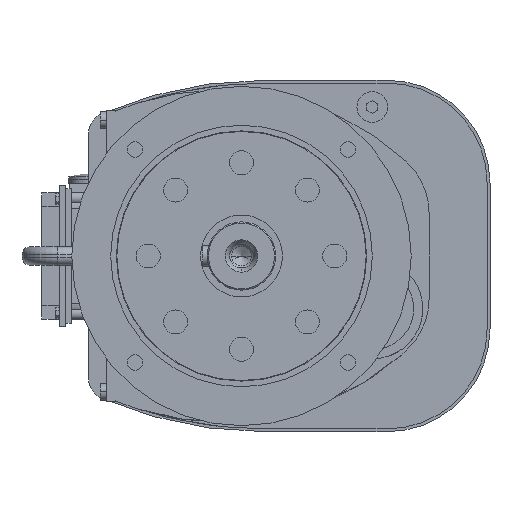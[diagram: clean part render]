
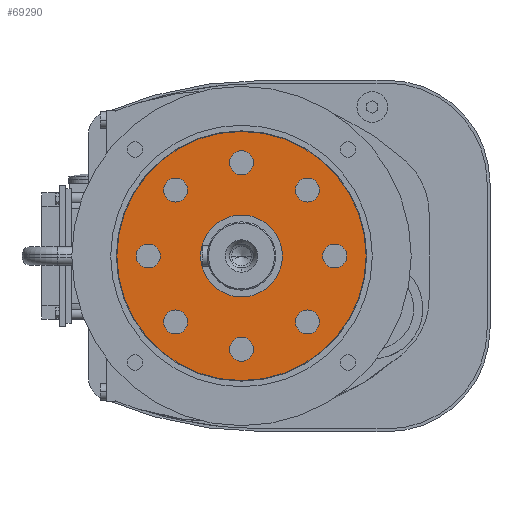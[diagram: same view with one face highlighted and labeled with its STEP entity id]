
A CAD part, left-side view. The second image highlights one B-rep face of the part: STEP entity #69290.
In plain terms, the highlighted planar face has unit normal (-1, 0, 0).
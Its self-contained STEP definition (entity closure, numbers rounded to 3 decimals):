
#63640=CARTESIAN_POINT('',(4.5,109.555,0.));
#63650=VERTEX_POINT('',#63640);
#63830=CARTESIAN_POINT('',(4.5,-109.555,0.));
#63840=VERTEX_POINT('',#63830);
#63870=CARTESIAN_POINT('',(4.5,0.,0.));
#63880=DIRECTION('',(-1.,0.,0.));
#63890=DIRECTION('',(0.,1.,0.));
#63900=AXIS2_PLACEMENT_3D('',#63870,#63880,#63890);
#63910=CIRCLE('',#63900,109.555);
#63920=EDGE_CURVE('',#63840,#63650,#63910,.T.);
#67540=EDGE_CURVE('',#63650,#63840,#63910,.T.);
#68000=CARTESIAN_POINT('',(4.5,70.,0.));
#68010=DIRECTION('',(1.,0.,0.));
#68020=DIRECTION('',(0.,-1.,0.));
#68030=AXIS2_PLACEMENT_3D('',#68000,#68010,#68020);
#68040=PLANE('',#68030);
#68050=ORIENTED_EDGE('',*,*,#67540,.T.);
#68060=ORIENTED_EDGE('',*,*,#63920,.T.);
#68070=EDGE_LOOP('',(#68060,#68050));
#68080=FACE_OUTER_BOUND('',#68070,.T.);
#68090=CARTESIAN_POINT('',(4.5,0.,-82.));
#68100=DIRECTION('',(-1.,0.,0.));
#68110=DIRECTION('',(0.,-1.,0.));
#68120=AXIS2_PLACEMENT_3D('',#68090,#68100,#68110);
#68130=CIRCLE('',#68120,10.55);
#68140=CARTESIAN_POINT('',(4.5,-10.55,-82.));
#68150=VERTEX_POINT('',#68140);
#68160=CARTESIAN_POINT('',(4.5,10.55,-82.));
#68170=VERTEX_POINT('',#68160);
#68180=EDGE_CURVE('',#68150,#68170,#68130,.T.);
#68190=ORIENTED_EDGE('',*,*,#68180,.F.);
#68200=EDGE_CURVE('',#68170,#68150,#68130,.T.);
#68210=ORIENTED_EDGE('',*,*,#68200,.F.);
#68220=EDGE_LOOP('',(#68210,#68190));
#68230=FACE_BOUND('',#68220,.T.);
#68240=CARTESIAN_POINT('',(4.5,-57.983,-57.983));
#68250=DIRECTION('',(-1.,0.,0.));
#68260=DIRECTION('',(0.,-1.,0.));
#68270=AXIS2_PLACEMENT_3D('',#68240,#68250,#68260);
#68280=CIRCLE('',#68270,10.55);
#68290=CARTESIAN_POINT('',(4.5,-68.533,-57.983));
#68300=VERTEX_POINT('',#68290);
#68310=CARTESIAN_POINT('',(4.5,-47.433,-57.983));
#68320=VERTEX_POINT('',#68310);
#68330=EDGE_CURVE('',#68300,#68320,#68280,.T.);
#68340=ORIENTED_EDGE('',*,*,#68330,.F.);
#68350=EDGE_CURVE('',#68320,#68300,#68280,.T.);
#68360=ORIENTED_EDGE('',*,*,#68350,.F.);
#68370=EDGE_LOOP('',(#68360,#68340));
#68380=FACE_BOUND('',#68370,.T.);
#68390=CARTESIAN_POINT('',(4.5,-82.,0.));
#68400=DIRECTION('',(-1.,0.,0.));
#68410=DIRECTION('',(0.,-1.,0.));
#68420=AXIS2_PLACEMENT_3D('',#68390,#68400,#68410);
#68430=CIRCLE('',#68420,10.55);
#68440=CARTESIAN_POINT('',(4.5,-92.55,0.));
#68450=VERTEX_POINT('',#68440);
#68460=CARTESIAN_POINT('',(4.5,-71.45,0.));
#68470=VERTEX_POINT('',#68460);
#68480=EDGE_CURVE('',#68450,#68470,#68430,.T.);
#68490=ORIENTED_EDGE('',*,*,#68480,.F.);
#68500=EDGE_CURVE('',#68470,#68450,#68430,.T.);
#68510=ORIENTED_EDGE('',*,*,#68500,.F.);
#68520=EDGE_LOOP('',(#68510,#68490));
#68530=FACE_BOUND('',#68520,.T.);
#68540=CARTESIAN_POINT('',(4.5,82.,0.));
#68550=DIRECTION('',(-1.,0.,0.));
#68560=DIRECTION('',(0.,-1.,0.));
#68570=AXIS2_PLACEMENT_3D('',#68540,#68550,#68560);
#68580=CIRCLE('',#68570,10.55);
#68590=CARTESIAN_POINT('',(4.5,71.45,0.));
#68600=VERTEX_POINT('',#68590);
#68610=CARTESIAN_POINT('',(4.5,92.55,0.));
#68620=VERTEX_POINT('',#68610);
#68630=EDGE_CURVE('',#68600,#68620,#68580,.T.);
#68640=ORIENTED_EDGE('',*,*,#68630,.F.);
#68650=EDGE_CURVE('',#68620,#68600,#68580,.T.);
#68660=ORIENTED_EDGE('',*,*,#68650,.F.);
#68670=EDGE_LOOP('',(#68660,#68640));
#68680=FACE_BOUND('',#68670,.T.);
#68690=CARTESIAN_POINT('',(4.5,57.983,-57.983));
#68700=DIRECTION('',(-1.,0.,0.));
#68710=DIRECTION('',(0.,-1.,0.));
#68720=AXIS2_PLACEMENT_3D('',#68690,#68700,#68710);
#68730=CIRCLE('',#68720,10.55);
#68740=CARTESIAN_POINT('',(4.5,47.433,-57.983));
#68750=VERTEX_POINT('',#68740);
#68760=CARTESIAN_POINT('',(4.5,68.533,-57.983));
#68770=VERTEX_POINT('',#68760);
#68780=EDGE_CURVE('',#68750,#68770,#68730,.T.);
#68790=ORIENTED_EDGE('',*,*,#68780,.F.);
#68800=EDGE_CURVE('',#68770,#68750,#68730,.T.);
#68810=ORIENTED_EDGE('',*,*,#68800,.F.);
#68820=EDGE_LOOP('',(#68810,#68790));
#68830=FACE_BOUND('',#68820,.T.);
#68840=CARTESIAN_POINT('',(4.5,0.,82.));
#68850=DIRECTION('',(-1.,0.,0.));
#68860=DIRECTION('',(0.,-1.,0.));
#68870=AXIS2_PLACEMENT_3D('',#68840,#68850,#68860);
#68880=CIRCLE('',#68870,10.55);
#68890=CARTESIAN_POINT('',(4.5,-10.55,82.));
#68900=VERTEX_POINT('',#68890);
#68910=CARTESIAN_POINT('',(4.5,10.55,82.));
#68920=VERTEX_POINT('',#68910);
#68930=EDGE_CURVE('',#68900,#68920,#68880,.T.);
#68940=ORIENTED_EDGE('',*,*,#68930,.F.);
#68950=EDGE_CURVE('',#68920,#68900,#68880,.T.);
#68960=ORIENTED_EDGE('',*,*,#68950,.F.);
#68970=EDGE_LOOP('',(#68960,#68940));
#68980=FACE_BOUND('',#68970,.T.);
#68990=CARTESIAN_POINT('',(4.5,-57.983,57.983));
#69000=DIRECTION('',(-1.,0.,0.));
#69010=DIRECTION('',(0.,-1.,0.));
#69020=AXIS2_PLACEMENT_3D('',#68990,#69000,#69010);
#69030=CIRCLE('',#69020,10.55);
#69040=CARTESIAN_POINT('',(4.5,-68.533,57.983));
#69050=VERTEX_POINT('',#69040);
#69060=CARTESIAN_POINT('',(4.5,-47.433,57.983));
#69070=VERTEX_POINT('',#69060);
#69080=EDGE_CURVE('',#69050,#69070,#69030,.T.);
#69090=ORIENTED_EDGE('',*,*,#69080,.F.);
#69100=EDGE_CURVE('',#69070,#69050,#69030,.T.);
#69110=ORIENTED_EDGE('',*,*,#69100,.F.);
#69120=EDGE_LOOP('',(#69110,#69090));
#69130=FACE_BOUND('',#69120,.T.);
#69140=CARTESIAN_POINT('',(4.5,57.983,57.983));
#69150=DIRECTION('',(-1.,0.,0.));
#69160=DIRECTION('',(0.,-1.,0.));
#69170=AXIS2_PLACEMENT_3D('',#69140,#69150,#69160);
#69180=CIRCLE('',#69170,10.55);
#69190=CARTESIAN_POINT('',(4.5,47.433,57.983));
#69200=VERTEX_POINT('',#69190);
#69210=CARTESIAN_POINT('',(4.5,68.533,57.983));
#69220=VERTEX_POINT('',#69210);
#69230=EDGE_CURVE('',#69200,#69220,#69180,.T.);
#69240=ORIENTED_EDGE('',*,*,#69230,.F.);
#69250=EDGE_CURVE('',#69220,#69200,#69180,.T.);
#69260=ORIENTED_EDGE('',*,*,#69250,.F.);
#69270=EDGE_LOOP('',(#69260,#69240));
#69280=FACE_BOUND('',#69270,.T.);
#69290=ADVANCED_FACE('',(#68080,#68230,#68380,#68530,#68680,#68830,#68980,#69130,#69280),#68040,.F.);
